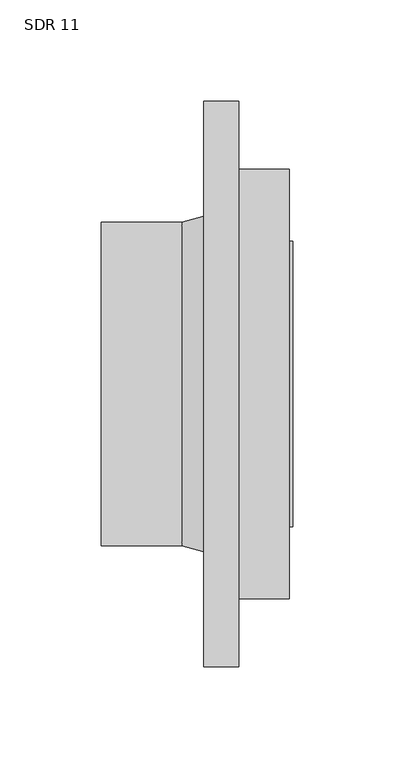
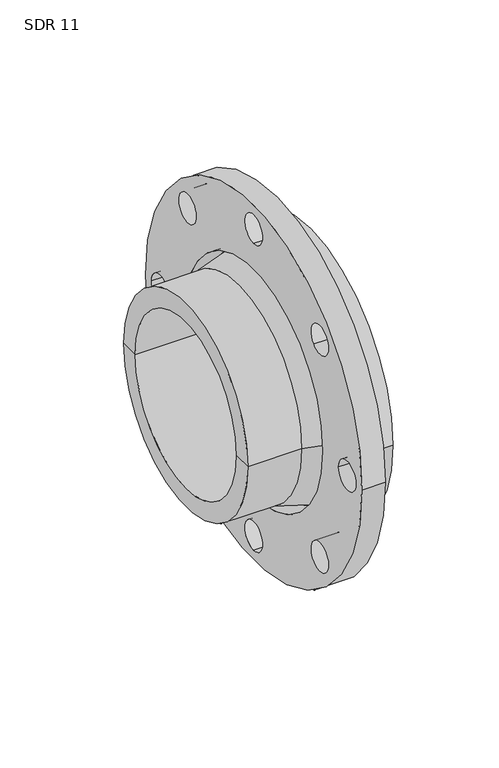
"""IFC4 building model written with IfcOpenShell, lengths in millimetres: valve geometry, Aquatherm - Flange Adapter Butt-Weld : SDR 11."""

from ifc_helpers import new_model, si_unit, point, frame, frame_2d, origin, origin_2d, place, context, project, spatial, polyline, circle_curve, trimmed, segment, composite_curve, outline, extrude, source, transform, mapped, element, save
from ifc_brep_helpers import plane_surface, cylinder_surface, revolved_surface, advanced_brep


def sdr_11_2668d8ae(model_context):
    return source(origin(), model_context, "Body", "SolidModel", [
        extrude(outline(composite_curve([segment(trimmed(circle_curve(origin_2d(), 139.7), [point((-139.7, 0.0))], [point((139.7, 0.0))], False, "CARTESIAN"), True, "CONTINUOUS"), segment(trimmed(circle_curve(origin_2d(), 139.7), [point((139.7, 0.0))], [point((-139.7, 0.0))], False, "CARTESIAN"), True, "CONTINUOUS")], self_intersect=False), holes=[composite_curve([segment(trimmed(circle_curve(origin_2d(), 88.9), [point((-88.9, 0.0))], [point((88.9, 0.0))], True, "CARTESIAN"), True, "CONTINUOUS"), segment(trimmed(circle_curve(origin_2d(), 88.9), [point((88.9, 0.0))], [point((-88.9, 0.0))], True, "CARTESIAN"), True, "CONTINUOUS")], self_intersect=False), composite_curve([segment(trimmed(circle_curve(frame_2d((120.65, 0.0)), 11.176), [point((109.474, 0.0))], [point((131.826, 0.0))], True, "CARTESIAN"), True, "CONTINUOUS"), segment(trimmed(circle_curve(frame_2d((120.65, 0.0)), 11.176), [point((131.826, 0.0))], [point((109.474, 0.0))], True, "CARTESIAN"), True, "CONTINUOUS")], self_intersect=False), composite_curve([segment(trimmed(circle_curve(frame_2d((85.3124332, -85.3124332)), 11.176), [point((77.4098078, -77.4098078))], [point((93.2150585, -93.2150585))], True, "CARTESIAN"), True, "CONTINUOUS"), segment(trimmed(circle_curve(frame_2d((85.3124332, -85.3124332)), 11.176), [point((93.2150585, -93.2150585))], [point((77.4098078, -77.4098078))], True, "CARTESIAN"), True, "CONTINUOUS")], self_intersect=False), composite_curve([segment(trimmed(circle_curve(frame_2d((85.3124332, 85.3124332)), 11.176), [point((77.4098078, 77.4098078))], [point((93.2150585, 93.2150585))], True, "CARTESIAN"), True, "CONTINUOUS"), segment(trimmed(circle_curve(frame_2d((85.3124332, 85.3124332)), 11.176), [point((93.2150585, 93.2150585))], [point((77.4098078, 77.4098078))], True, "CARTESIAN"), True, "CONTINUOUS")], self_intersect=False), composite_curve([segment(trimmed(circle_curve(frame_2d((0.0, 120.65)), 11.176), [point((0.0, 109.474))], [point((0.0, 131.826))], True, "CARTESIAN"), True, "CONTINUOUS"), segment(trimmed(circle_curve(frame_2d((0.0, 120.65)), 11.176), [point((0.0, 131.826))], [point((0.0, 109.474))], True, "CARTESIAN"), True, "CONTINUOUS")], self_intersect=False), composite_curve([segment(trimmed(circle_curve(frame_2d((-85.3124332, 85.3124332)), 11.176), [point((-77.4098078, 77.4098078))], [point((-93.2150585, 93.2150585))], True, "CARTESIAN"), True, "CONTINUOUS"), segment(trimmed(circle_curve(frame_2d((-85.3124332, 85.3124332)), 11.176), [point((-93.2150585, 93.2150585))], [point((-77.4098078, 77.4098078))], True, "CARTESIAN"), True, "CONTINUOUS")], self_intersect=False), composite_curve([segment(trimmed(circle_curve(frame_2d((-120.65, 0.0)), 11.176), [point((-109.474, 0.0))], [point((-131.826, 0.0))], True, "CARTESIAN"), True, "CONTINUOUS"), segment(trimmed(circle_curve(frame_2d((-120.65, 0.0)), 11.176), [point((-131.826, 0.0))], [point((-109.474, 0.0))], True, "CARTESIAN"), True, "CONTINUOUS")], self_intersect=False), composite_curve([segment(trimmed(circle_curve(frame_2d((-85.3124332, -85.3124332)), 11.176), [point((-77.4098078, -77.4098078))], [point((-93.2150585, -93.2150585))], True, "CARTESIAN"), True, "CONTINUOUS"), segment(trimmed(circle_curve(frame_2d((-85.3124332, -85.3124332)), 11.176), [point((-93.2150585, -93.2150585))], [point((-77.4098078, -77.4098078))], True, "CARTESIAN"), True, "CONTINUOUS")], self_intersect=False), composite_curve([segment(trimmed(circle_curve(frame_2d((0.0, -120.65)), 11.176), [point((0.0, -109.474))], [point((0.0, -131.826))], True, "CARTESIAN"), True, "CONTINUOUS"), segment(trimmed(circle_curve(frame_2d((0.0, -120.65)), 11.176), [point((0.0, -131.826))], [point((0.0, -109.474))], True, "CARTESIAN"), True, "CONTINUOUS")], self_intersect=False)]), frame((-17.526, 0.0, 0.0), z_axis=(1.0, 0.0, 0.0), x_axis=(0.0, 1.0, 0.0)), (0.0, 0.0, 1.0), 17.526),
        advanced_brep(
        [(24.892, 106.045, 0.0), (24.892, -106.045, 0.0), (0.0, -106.045, 0.0), (0.0, 106.045, 0.0), (26.4795, 65.532, 0.0), (26.4795, -65.532, 0.0), (26.4795, -70.612, 0.0), (26.4795, 70.612, 0.0), (-68.072, 65.532, 0.0), (-68.072, -65.532, 0.0), (-68.072, 80.01, 0.0), (-68.072, -80.01, 0.0), (-28.194, 80.01, 0.0), (-28.194, -80.01, 0.0), (0.0, -87.503, 0.0), (0.0, 87.503, 0.0), (24.892, 70.612, 0.0), (24.892, -70.612, 0.0)],
        [
            (0, 1, circle_curve(frame((24.892, 0.0, 0.0), z_axis=(-1.0, 0.0, 0.0), x_axis=(0.0, -1.0, 0.0)), 106.045)),
            (1, 2),
            (2, 3, circle_curve(frame((0.0, 0.0, 0.0), z_axis=(1.0, 0.0, 0.0), x_axis=(0.0, -1.0, 0.0)), 106.045)),
            (3, 0),
            (1, 0, circle_curve(frame((24.892, 0.0, 0.0), z_axis=(-1.0, 0.0, 0.0), x_axis=(0.0, -1.0, 0.0)), 106.045)),
            (3, 2, circle_curve(frame((0.0, 0.0, 0.0), z_axis=(1.0, 0.0, 0.0), x_axis=(0.0, -1.0, 0.0)), 106.045)),
            (4, 5, circle_curve(frame((26.4795, 0.0, 0.0), z_axis=(-1.0, 0.0, 0.0), x_axis=(0.0, -1.0, 0.0)), 65.532)),
            (5, 6),
            (6, 7, circle_curve(frame((26.4795, 0.0, 0.0), z_axis=(1.0, 0.0, 0.0), x_axis=(0.0, -1.0, 0.0)), 70.612)),
            (7, 4),
            (5, 4, circle_curve(frame((26.4795, 0.0, 0.0), z_axis=(-1.0, 0.0, 0.0), x_axis=(0.0, -1.0, 0.0)), 65.532)),
            (7, 6, circle_curve(frame((26.4795, 0.0, 0.0), z_axis=(1.0, 0.0, 0.0), x_axis=(0.0, -1.0, 0.0)), 70.612)),
            (8, 9, circle_curve(frame((-68.072, 0.0, 0.0), z_axis=(-1.0, 0.0, 0.0), x_axis=(0.0, -1.0, 0.0)), 65.532)),
            (9, 5),
            (4, 8),
            (9, 8, circle_curve(frame((-68.072, 0.0, 0.0), z_axis=(-1.0, 0.0, 0.0), x_axis=(0.0, -1.0, 0.0)), 65.532)),
            (10, 11, circle_curve(frame((-68.072, 0.0, 0.0), z_axis=(-1.0, 0.0, 0.0), x_axis=(0.0, -1.0, 0.0)), 80.01)),
            (11, 9),
            (8, 10),
            (11, 10, circle_curve(frame((-68.072, 0.0, 0.0), z_axis=(-1.0, 0.0, 0.0), x_axis=(0.0, -1.0, 0.0)), 80.01)),
            (12, 13, circle_curve(frame((-28.194, 0.0, 0.0), z_axis=(-1.0, 0.0, 0.0), x_axis=(0.0, -1.0, 0.0)), 80.01)),
            (13, 11),
            (10, 12),
            (13, 12, circle_curve(frame((-28.194, 0.0, 0.0), z_axis=(-1.0, 0.0, 0.0), x_axis=(0.0, -1.0, 0.0)), 80.01)),
            (2, 14),
            (14, 15, circle_curve(frame((0.0, 0.0, 0.0), z_axis=(1.0, 0.0, 0.0), x_axis=(0.0, -1.0, 0.0)), 87.503)),
            (15, 3),
            (15, 14, circle_curve(frame((0.0, 0.0, 0.0), z_axis=(1.0, 0.0, 0.0), x_axis=(0.0, -1.0, 0.0)), 87.503)),
            (16, 17, circle_curve(frame((24.892, 0.0, 0.0), z_axis=(-1.0, 0.0, 0.0), x_axis=(0.0, -1.0, 0.0)), 70.612)),
            (17, 1),
            (0, 16),
            (17, 16, circle_curve(frame((24.892, 0.0, 0.0), z_axis=(-1.0, 0.0, 0.0), x_axis=(0.0, -1.0, 0.0)), 70.612)),
            (6, 17),
            (16, 7),
            (14, 13),
            (12, 15),
        ],
        [
            cylinder_surface(frame((1465.5309321, 0.0, 0.0), z_axis=(1.0, 0.0, 0.0), x_axis=(0.0, -1.0, 0.0)), 106.045),
            plane_surface(frame((26.4795, 0.0, 0.0), z_axis=(1.0, 0.0, 0.0), x_axis=(0.0, -1.0, 0.0))),
            revolved_surface(polyline([(26.479499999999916, -65.532, 0.0), (-68.07200000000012, -65.532, 0.0)]), (1465.5309321, 0.0, 0.0), (1.0, 0.0, 0.0)),
            plane_surface(frame((-68.072, 0.0, 0.0), z_axis=(-1.0, 0.0, 0.0), x_axis=(0.0, -1.0, 0.0))),
            cylinder_surface(frame((1465.5309321, 0.0, 0.0), z_axis=(1.0, 0.0, 0.0), x_axis=(0.0, -1.0, 0.0)), 80.01),
            plane_surface(frame((0.0, 0.0, 0.0), z_axis=(-1.0, 0.0, 0.0), x_axis=(0.0, -1.0, 0.0))),
            plane_surface(frame((24.892, 0.0, 0.0), z_axis=(1.0, 0.0, 0.0), x_axis=(0.0, -1.0, 0.0))),
            cylinder_surface(frame((1465.5309321, 0.0, 0.0), z_axis=(1.0, 0.0, 0.0), x_axis=(0.0, -1.0, 0.0)), 70.612),
            revolved_surface(polyline([(-28.194, -80.01, 0.0), (0.0, -87.503, 0.0)]), (1465.5309321, 0.0, 0.0), (1.0, 0.0, 0.0)),
        ],
        [
            (0, [[1, 2, 3, 4]]),
            (0, [[5, -4, 6, -2]]),
            (1, [[7, 8, 9, 10]]),
            (1, [[11, -10, 12, -8]]),
            (2, [[13, 14, -7, 15]]),
            (2, [[16, -15, -11, -14]]),
            (3, [[17, 18, -13, 19]]),
            (3, [[20, -19, -16, -18]]),
            (4, [[21, 22, -17, 23]]),
            (4, [[24, -23, -20, -22]]),
            (5, [[-3, 25, 26, 27]]),
            (5, [[-6, -27, 28, -25]]),
            (6, [[29, 30, -1, 31]]),
            (6, [[32, -31, -5, -30]]),
            (7, [[-9, 33, -29, 34]]),
            (7, [[-12, -34, -32, -33]]),
            (8, [[-26, 35, -21, 36]]),
            (8, [[-28, -36, -24, -35]]),
        ],
    ),
    ])


if __name__ == "__main__":
    model = new_model("IFC4")
    model_context = context("Model", 3, world=origin())
    ifc_project = project(units=[si_unit("LENGTHUNIT", "METRE", prefix="MILLI")], contexts=[model_context])
    site = spatial("IfcSite", under=ifc_project)
    building = spatial("IfcBuilding", under=site)
    placement = place(None, origin())
    sdr_11_shape = sdr_11_2668d8ae(model_context)
    element("IfcValve", 1, ObjectType="Aquatherm - Flange Adapter Butt-Weld : SDR 11", at=placement, inside=building, context=model_context, shape_type="MappedRepresentation", body=[
        mapped(sdr_11_shape, transform((0.0, 0.0, 0.0), x_axis=(1.0, 0.0, 0.0), y_axis=(0.0, 1.0, 0.0), z_axis=(0.0, 0.0, 1.0))),
    ])
    save(model, "model.ifc")
